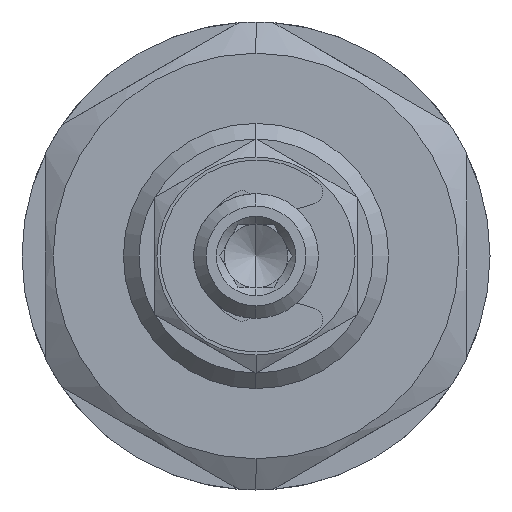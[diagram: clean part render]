
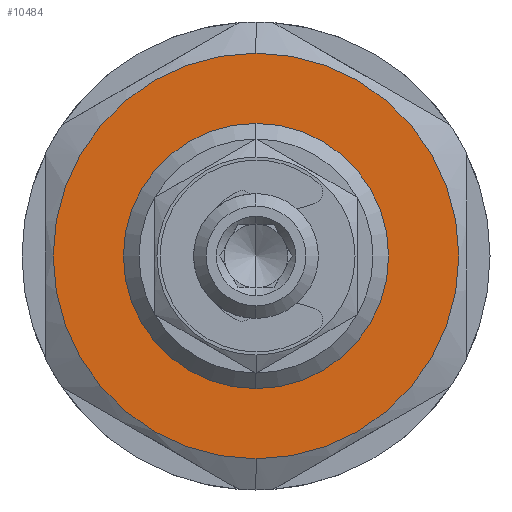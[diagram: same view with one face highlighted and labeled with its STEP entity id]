
A CAD part, left-side view. The second image highlights one B-rep face of the part: STEP entity #10484.
In plain terms, the highlighted planar face has unit normal (-1, 0, 0).
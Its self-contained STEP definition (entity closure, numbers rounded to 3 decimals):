
#59 = CARTESIAN_POINT ( 'NONE',  ( -11.8, 8.5, 0. ) ) ;
#988 = DIRECTION ( 'NONE',  ( 0., 0., 1. ) ) ;
#1081 = AXIS2_PLACEMENT_3D ( 'NONE', #8746, #6282, #10089 ) ;
#1334 = FACE_OUTER_BOUND ( 'NONE', #5950, .T. ) ;
#1542 = EDGE_CURVE ( 'NONE', #7034, #10915, #11457, .T. ) ;
#2520 = EDGE_LOOP ( 'NONE', ( #9500, #3649 ) ) ;
#2640 = DIRECTION ( 'NONE',  ( -1., 0., 0. ) ) ;
#2914 = CARTESIAN_POINT ( 'NONE',  ( -11.8, 0., -8.5 ) ) ;
#3062 = CIRCLE ( 'NONE', #7732, 8.5 ) ;
#3649 = ORIENTED_EDGE ( 'NONE', *, *, #9101, .F. ) ;
#4090 = VERTEX_POINT ( 'NONE', #2914 ) ;
#4101 = CARTESIAN_POINT ( 'NONE',  ( -11.8, 0., 8.5 ) ) ;
#4587 = EDGE_CURVE ( 'NONE', #10915, #7034, #7981, .T. ) ;
#4638 = PLANE ( 'NONE',  #6942 ) ;
#4744 = AXIS2_PLACEMENT_3D ( 'NONE', #7936, #5857, #11483 ) ;
#5512 = ORIENTED_EDGE ( 'NONE', *, *, #1542, .T. ) ;
#5857 = DIRECTION ( 'NONE',  ( -1., 0., 0. ) ) ;
#5950 = EDGE_LOOP ( 'NONE', ( #5512, #8466 ) ) ;
#6282 = DIRECTION ( 'NONE',  ( -1., 0., 0. ) ) ;
#6518 = DIRECTION ( 'NONE',  ( -1., 0., 0. ) ) ;
#6942 = AXIS2_PLACEMENT_3D ( 'NONE', #59, #6518, #988 ) ;
#7034 = VERTEX_POINT ( 'NONE', #9063 ) ;
#7328 = AXIS2_PLACEMENT_3D ( 'NONE', #9119, #2640, #10990 ) ;
#7732 = AXIS2_PLACEMENT_3D ( 'NONE', #8399, #11306, #11152 ) ;
#7936 = CARTESIAN_POINT ( 'NONE',  ( -11.8, 0., 0. ) ) ;
#7981 = CIRCLE ( 'NONE', #4744, 13. ) ;
#8280 = EDGE_CURVE ( 'NONE', #10662, #4090, #8282, .T. ) ;
#8282 = CIRCLE ( 'NONE', #1081, 8.5 ) ;
#8399 = CARTESIAN_POINT ( 'NONE',  ( -11.8, 0., 0. ) ) ;
#8466 = ORIENTED_EDGE ( 'NONE', *, *, #4587, .T. ) ;
#8687 = FACE_BOUND ( 'NONE', #2520, .T. ) ;
#8746 = CARTESIAN_POINT ( 'NONE',  ( -11.8, 0., 0. ) ) ;
#9063 = CARTESIAN_POINT ( 'NONE',  ( -11.8, 0., -13. ) ) ;
#9101 = EDGE_CURVE ( 'NONE', #4090, #10662, #3062, .T. ) ;
#9119 = CARTESIAN_POINT ( 'NONE',  ( -11.8, 0., 0. ) ) ;
#9204 = CARTESIAN_POINT ( 'NONE',  ( -11.8, 0., 13. ) ) ;
#9500 = ORIENTED_EDGE ( 'NONE', *, *, #8280, .F. ) ;
#10089 = DIRECTION ( 'NONE',  ( 0., 0., 1. ) ) ;
#10484 = ADVANCED_FACE ( 'NONE', ( #1334, #8687 ), #4638, .T. ) ;
#10662 = VERTEX_POINT ( 'NONE', #4101 ) ;
#10915 = VERTEX_POINT ( 'NONE', #9204 ) ;
#10990 = DIRECTION ( 'NONE',  ( 0., 0., 1. ) ) ;
#11152 = DIRECTION ( 'NONE',  ( 0., 0., 1. ) ) ;
#11306 = DIRECTION ( 'NONE',  ( -1., 0., 0. ) ) ;
#11457 = CIRCLE ( 'NONE', #7328, 13. ) ;
#11483 = DIRECTION ( 'NONE',  ( 0., 0., 1. ) ) ;
